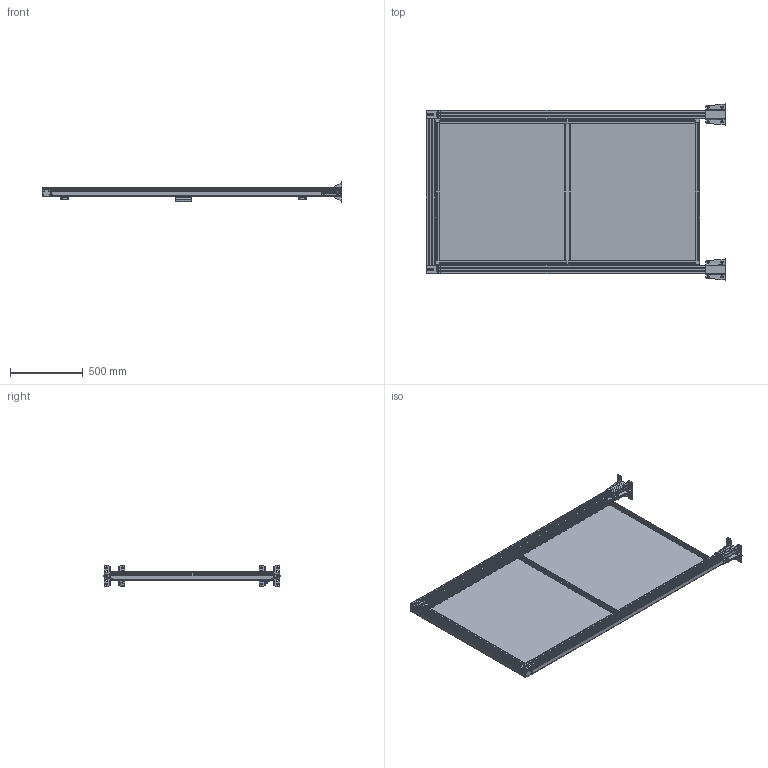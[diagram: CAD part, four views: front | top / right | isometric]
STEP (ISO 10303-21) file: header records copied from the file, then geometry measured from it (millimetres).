
FILE_DESCRIPTION(/* description */ (''),/* implementation_level */ '2;1');
FILE_NAME(/* name */ 'Z:\Marketing\fastline\Porta ad anta singola H=2000.stp',/* time_stamp */ '2021-10-15T15:07:11+02:00',/* author */ ('mpistoia'),/* organization */ (''),/* preprocessor_version */ 'ST-DEVELOPER v17.2',/* originating_system */ 'Autodesk Inventor 2019',/* authorisation */ '');
FILE_SCHEMA (('AUTOMOTIVE_DESIGN { 1 0 10303 214 3 1 1 }'));
Products named in the file (1): Porta ad anta singola H=2000
Bounding box: 2063 x 1211.13 x 146.95 mm (x, y, z)
Volume: 10945773.3 mm3; surface area: 8754583.1 mm2
Topology: 3 solids, 12 shells, 3010 faces, 8016 edges, 5043 vertices
Faces by surface type: plane 1802, cylinder 922, cone 114, sphere 92, torus 46, bspline 34
Full cylindrical faces by diameter (mm): 3.2 x2, 4.5 x4, 6.35 x2, 6.647 x8, 7 x10, 7.5 x16, 8 x16, 8.5 x2, 9.5 x8, 11 x2, 11.63 x8, 13 x8, 13.2 x16, 14 x2, 18 x2, 21 x2
Entity records: 96252 total; most frequent: CARTESIAN_POINT 20166, DIRECTION 16081, ORIENTED_EDGE 16008, EDGE_CURVE 8004, AXIS2_PLACEMENT_3D 5450, LINE 5181, VECTOR 5181, VERTEX_POINT 5043
